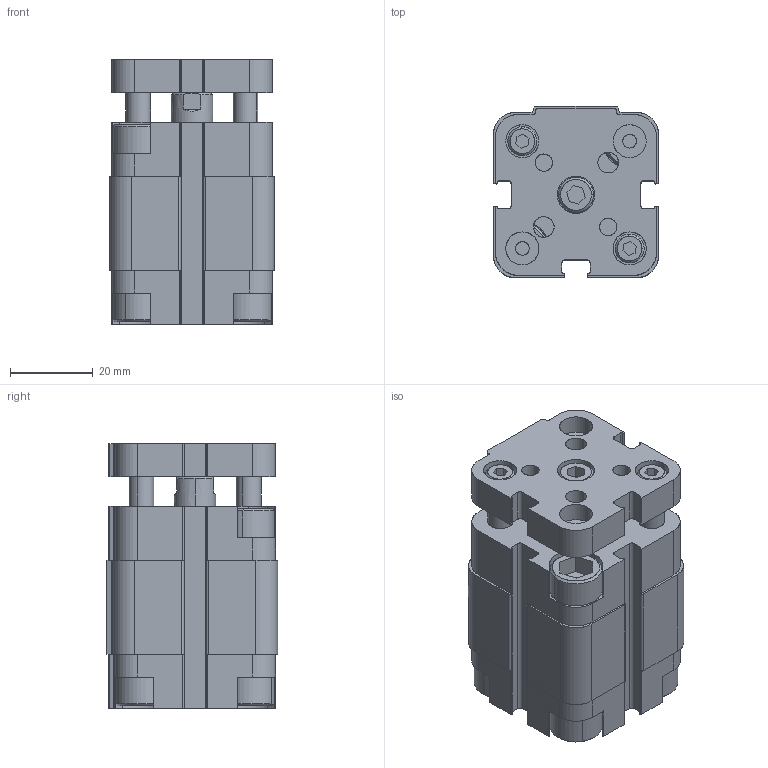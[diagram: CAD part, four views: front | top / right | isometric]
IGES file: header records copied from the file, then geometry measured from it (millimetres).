
Start section: SolidWorks IGES file using analytic representation for surfaces
Global section: file name: K:\Disegni Esecutivi\Cilindri\2_DISEGNI_cilindri_in_produzione\5_Cilindri Compatti\complessivicompatti\QFA\QFA025\QFA025PIENO\QFA0250010A.igs; native system: SolidWorks 2011; preprocessor: SolidWorks 2011; author: Cad01; date: 111017.103849; units: millimetre
Bounding box: 40 x 41.5 x 64.2 mm (x, y, z)
Surface area: 21826 mm2 (no closed solid volume)
Topology: 0 solids, 0 shells, 410 faces, 4993 edges, 4993 vertices
Faces by surface type: bspline 210, revolution 200
